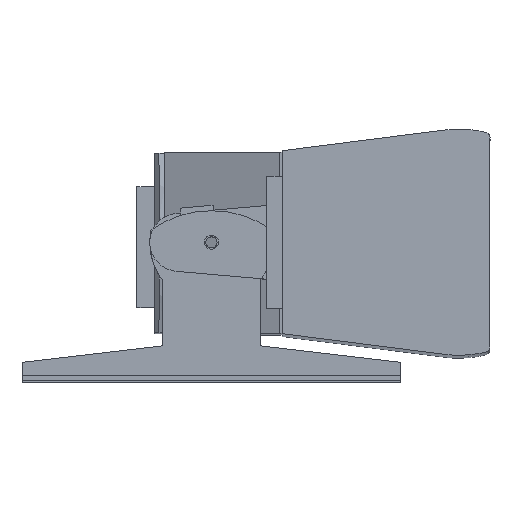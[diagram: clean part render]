
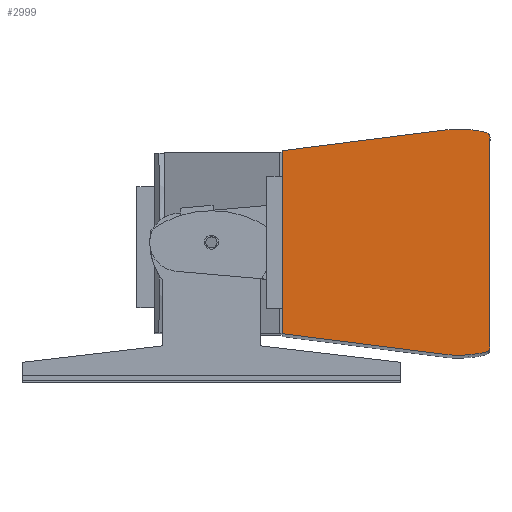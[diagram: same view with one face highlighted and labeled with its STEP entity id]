
A CAD part, top view. The second image highlights one B-rep face of the part: STEP entity #2999.
In plain terms, the highlighted planar face has unit normal (0, 0, 1).
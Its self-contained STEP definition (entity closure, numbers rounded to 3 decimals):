
#24=B_SPLINE_CURVE_WITH_KNOTS('',3,(#4695,#4696,#4697,#4698,#4699,#4700,
#4701,#4702,#4703,#4704,#4705,#4706),.UNSPECIFIED.,.F.,.F.,(4,2,2,2,2,4),
(0.,0.122,0.232,0.331,0.431,
0.443),.UNSPECIFIED.);
#26=B_SPLINE_CURVE_WITH_KNOTS('',3,(#4744,#4745,#4746,#4747,#4748,#4749,
#4750,#4751,#4752,#4753,#4754,#4755),.UNSPECIFIED.,.F.,.F.,(4,2,2,2,2,4),
(-0.443,-0.431,-0.331,-0.232,
-0.122,0.),.UNSPECIFIED.);
#202=FACE_OUTER_BOUND('',#373,.T.);
#373=EDGE_LOOP('',(#2436,#2437,#2438,#2439,#2440,#2441,#2442,#2443,#2444,
#2445));
#591=LINE('',#4592,#926);
#601=LINE('',#4612,#936);
#630=LINE('',#4783,#965);
#632=LINE('',#4786,#967);
#926=VECTOR('',#3758,10.);
#936=VECTOR('',#3772,10.);
#965=VECTOR('',#3827,10.);
#967=VECTOR('',#3831,10.);
#1186=CIRCLE('',#3240,59.69);
#1188=CIRCLE('',#3243,74.662);
#1190=CIRCLE('',#3246,74.662);
#1192=CIRCLE('',#3249,59.69);
#1356=VERTEX_POINT('',#4589);
#1357=VERTEX_POINT('',#4591);
#1363=VERTEX_POINT('',#4608);
#1365=VERTEX_POINT('',#4611);
#1388=VERTEX_POINT('',#4658);
#1389=VERTEX_POINT('',#4660);
#1391=VERTEX_POINT('',#4666);
#1393=VERTEX_POINT('',#4743);
#1395=VERTEX_POINT('',#4771);
#1397=VERTEX_POINT('',#4777);
#1716=EDGE_CURVE('',#1357,#1356,#591,.T.);
#1726=EDGE_CURVE('',#1365,#1363,#601,.T.);
#1750=EDGE_CURVE('',#1389,#1388,#1186,.T.);
#1753=EDGE_CURVE('',#1391,#1389,#1188,.T.);
#1756=EDGE_CURVE('',#1356,#1391,#24,.T.);
#1758=EDGE_CURVE('',#1393,#1357,#26,.T.);
#1761=EDGE_CURVE('',#1395,#1393,#1190,.T.);
#1764=EDGE_CURVE('',#1397,#1395,#1192,.T.);
#1767=EDGE_CURVE('',#1363,#1397,#630,.T.);
#1769=EDGE_CURVE('',#1388,#1365,#632,.T.);
#2436=ORIENTED_EDGE('',*,*,#1750,.T.);
#2437=ORIENTED_EDGE('',*,*,#1769,.T.);
#2438=ORIENTED_EDGE('',*,*,#1726,.T.);
#2439=ORIENTED_EDGE('',*,*,#1767,.T.);
#2440=ORIENTED_EDGE('',*,*,#1764,.T.);
#2441=ORIENTED_EDGE('',*,*,#1761,.T.);
#2442=ORIENTED_EDGE('',*,*,#1758,.T.);
#2443=ORIENTED_EDGE('',*,*,#1716,.T.);
#2444=ORIENTED_EDGE('',*,*,#1756,.T.);
#2445=ORIENTED_EDGE('',*,*,#1753,.T.);
#2862=PLANE('',#3257);
#2999=ADVANCED_FACE('',(#202),#2862,.T.);
#3240=AXIS2_PLACEMENT_3D('',#4661,#3798,#3799);
#3243=AXIS2_PLACEMENT_3D('',#4667,#3805,#3806);
#3246=AXIS2_PLACEMENT_3D('',#4772,#3813,#3814);
#3249=AXIS2_PLACEMENT_3D('',#4778,#3820,#3821);
#3257=AXIS2_PLACEMENT_3D('',#4794,#3843,#3844);
#3758=DIRECTION('',(-1.,0.,0.));
#3772=DIRECTION('',(1.,0.,0.));
#3798=DIRECTION('center_axis',(0.,0.,
1.));
#3799=DIRECTION('ref_axis',(-0.995,0.103,0.));
#3805=DIRECTION('center_axis',(0.,0.,
1.));
#3806=DIRECTION('ref_axis',(-0.974,0.228,0.));
#3813=DIRECTION('center_axis',(0.,0.,
1.));
#3814=DIRECTION('ref_axis',(0.996,0.089,0.));
#3820=DIRECTION('center_axis',(0.,0.,
1.));
#3821=DIRECTION('ref_axis',(0.989,-0.15,0.));
#3827=DIRECTION('',(0.126,0.992,0.));
#3831=DIRECTION('',(0.126,-0.992,0.));
#3843=DIRECTION('center_axis',(0.,0.,
1.));
#3844=DIRECTION('ref_axis',(1.,0.,0.));
#4589=CARTESIAN_POINT('',(-63.492,97.539,505.8));
#4591=CARTESIAN_POINT('',(63.492,97.539,505.8));
#4592=CARTESIAN_POINT('',(63.492,97.539,505.8));
#4608=CARTESIAN_POINT('',(55.541,-28.5,505.8));
#4611=CARTESIAN_POINT('',(-55.541,-28.5,505.8));
#4612=CARTESIAN_POINT('',(-52.866,-28.5,505.8));
#4658=CARTESIAN_POINT('',(-68.,69.526,505.8));
#4660=CARTESIAN_POINT('',(-68.36,84.608,505.8));
#4661=CARTESIAN_POINT('Origin',(-8.986,78.48,505.8));
#4666=CARTESIAN_POINT('',(-66.695,94.975,505.8));
#4667=CARTESIAN_POINT('Origin',(6.008,77.983,505.8));
#4695=CARTESIAN_POINT('Ctrl Pts',(-63.492,97.539,505.8));
#4696=CARTESIAN_POINT('Ctrl Pts',(-63.898,97.539,505.8));
#4697=CARTESIAN_POINT('Ctrl Pts',(-64.311,97.471,505.8));
#4698=CARTESIAN_POINT('Ctrl Pts',(-65.036,97.203,505.8));
#4699=CARTESIAN_POINT('Ctrl Pts',(-65.364,97.012,505.8));
#4700=CARTESIAN_POINT('Ctrl Pts',(-65.893,96.558,505.8));
#4701=CARTESIAN_POINT('Ctrl Pts',(-66.11,96.299,505.8));
#4702=CARTESIAN_POINT('Ctrl Pts',(-66.453,95.733,505.8));
#4703=CARTESIAN_POINT('Ctrl Pts',(-66.582,95.419,505.8));
#4704=CARTESIAN_POINT('Ctrl Pts',(-66.676,95.057,505.8));
#4705=CARTESIAN_POINT('Ctrl Pts',(-66.686,95.016,505.8));
#4706=CARTESIAN_POINT('Ctrl Pts',(-66.695,94.975,505.8));
#4743=CARTESIAN_POINT('',(66.695,94.975,505.8));
#4744=CARTESIAN_POINT('Ctrl Pts',(66.695,94.975,505.8));
#4745=CARTESIAN_POINT('Ctrl Pts',(66.686,95.016,505.8));
#4746=CARTESIAN_POINT('Ctrl Pts',(66.676,95.057,505.8));
#4747=CARTESIAN_POINT('Ctrl Pts',(66.582,95.419,505.8));
#4748=CARTESIAN_POINT('Ctrl Pts',(66.453,95.733,505.8));
#4749=CARTESIAN_POINT('Ctrl Pts',(66.11,96.299,505.8));
#4750=CARTESIAN_POINT('Ctrl Pts',(65.893,96.558,505.8));
#4751=CARTESIAN_POINT('Ctrl Pts',(65.364,97.012,505.8));
#4752=CARTESIAN_POINT('Ctrl Pts',(65.036,97.203,505.8));
#4753=CARTESIAN_POINT('Ctrl Pts',(64.311,97.471,505.8));
#4754=CARTESIAN_POINT('Ctrl Pts',(63.898,97.539,505.8));
#4755=CARTESIAN_POINT('Ctrl Pts',(63.492,97.539,505.8));
#4771=CARTESIAN_POINT('',(68.36,84.608,505.8));
#4772=CARTESIAN_POINT('Origin',(-6.008,77.983,505.8));
#4777=CARTESIAN_POINT('',(68.,69.526,505.8));
#4778=CARTESIAN_POINT('Origin',(8.986,78.48,505.8));
#4783=CARTESIAN_POINT('',(62.541,26.57,505.8));
#4786=CARTESIAN_POINT('',(-55.872,-25.893,505.8));
#4794=CARTESIAN_POINT('Origin',(0.,34.519,505.8));
